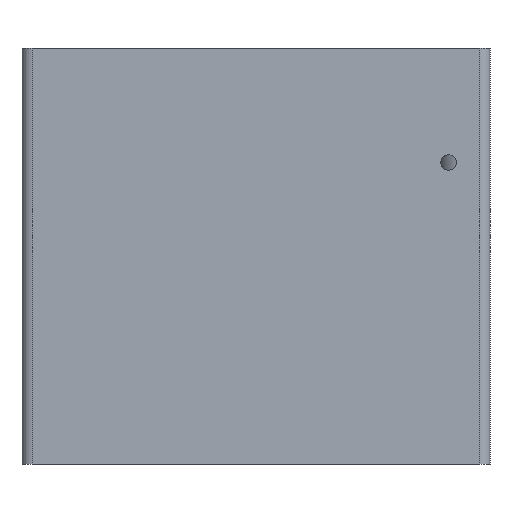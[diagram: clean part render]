
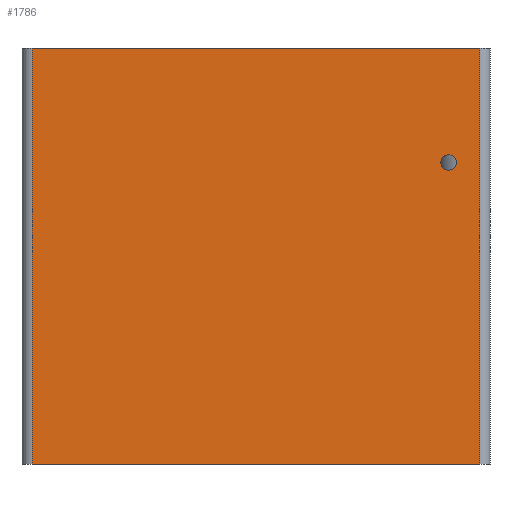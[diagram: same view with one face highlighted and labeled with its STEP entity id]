
A CAD part, front view. The second image highlights one B-rep face of the part: STEP entity #1786.
In plain terms, the highlighted planar face has unit normal (0, -1, 0).
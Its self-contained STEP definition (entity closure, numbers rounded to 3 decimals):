
#65=VECTOR('',#1982,1.);
#74=VECTOR('',#2008,1.);
#82=VECTOR('',#2038,1.);
#208=VECTOR('',#2320,1.);
#232=LINE('',#2385,#65);
#241=LINE('',#2421,#74);
#249=LINE('',#2451,#82);
#375=LINE('',#2952,#208);
#442=PLANE('',#1931);
#466=VERTEX_POINT('',#2384);
#467=VERTEX_POINT('',#2386);
#484=VERTEX_POINT('',#2420);
#494=VERTEX_POINT('',#2450);
#585=VERTEX_POINT('',#2865);
#652=CIRCLE('',#1899,1.5);
#693=EDGE_CURVE('',#466,#467,#232,.T.);
#712=EDGE_CURVE('',#466,#484,#241,.T.);
#727=EDGE_CURVE('',#494,#484,#249,.T.);
#855=EDGE_CURVE('',#585,#585,#652,.T.);
#897=EDGE_CURVE('',#494,#467,#375,.T.);
#1351=ORIENTED_EDGE('',*,*,#693,.F.);
#1352=ORIENTED_EDGE('',*,*,#712,.T.);
#1353=ORIENTED_EDGE('',*,*,#727,.F.);
#1354=ORIENTED_EDGE('',*,*,#897,.T.);
#1355=ORIENTED_EDGE('',*,*,#855,.T.);
#1519=EDGE_LOOP('',(#1351,#1352,#1353,#1354));
#1520=EDGE_LOOP('',(#1355));
#1677=FACE_BOUND('',#1519,.T.);
#1678=FACE_BOUND('',#1520,.T.);
#1786=ADVANCED_FACE('',(#1677,#1678),#442,.T.);
#1899=AXIS2_PLACEMENT_3D('',#2864,#2242,#2243);
#1931=AXIS2_PLACEMENT_3D('',#2951,#2319,$);
#1982=DIRECTION('',(0.,0.,-1.));
#2008=DIRECTION('',(-1.,0.,0.));
#2038=DIRECTION('',(0.,0.,1.));
#2242=DIRECTION('',(0.,1.,0.));
#2243=DIRECTION('',(1.5,0.,0.));
#2319=DIRECTION('',(0.,-1.,0.));
#2320=DIRECTION('',(1.,0.,0.));
#2384=CARTESIAN_POINT('',(43.,-30.,80.));
#2385=CARTESIAN_POINT('',(43.,-30.,0.));
#2386=CARTESIAN_POINT('',(43.,-30.,0.));
#2420=CARTESIAN_POINT('',(-43.,-30.,80.));
#2421=CARTESIAN_POINT('',(-45.,-30.,80.));
#2450=CARTESIAN_POINT('',(-43.,-30.,0.));
#2451=CARTESIAN_POINT('',(-43.,-30.,0.));
#2864=CARTESIAN_POINT('',(37.042,-30.,58.));
#2865=CARTESIAN_POINT('',(35.542,-30.,58.));
#2951=CARTESIAN_POINT('',(0.,-30.,0.));
#2952=CARTESIAN_POINT('',(-45.,-30.,0.));
